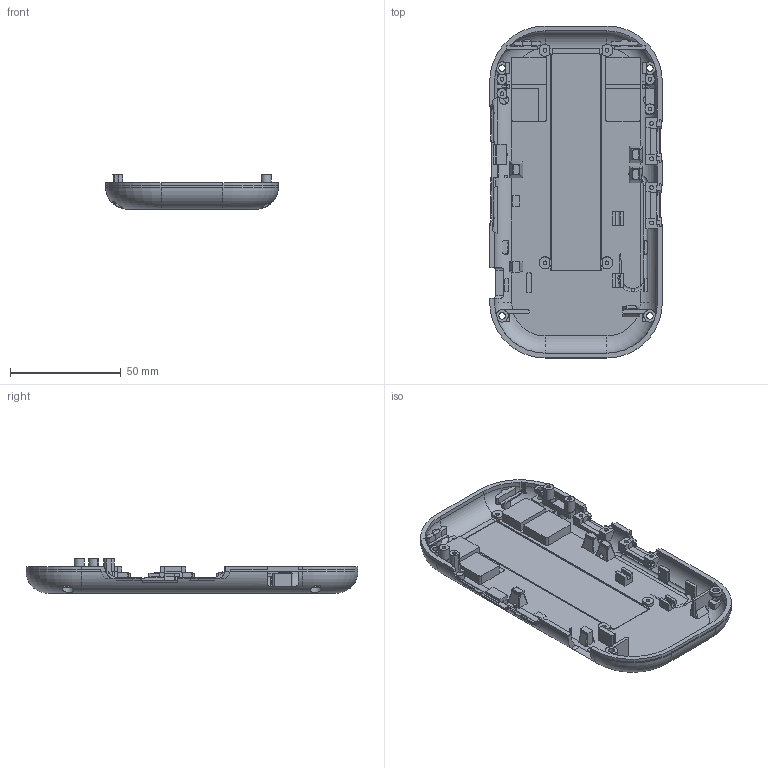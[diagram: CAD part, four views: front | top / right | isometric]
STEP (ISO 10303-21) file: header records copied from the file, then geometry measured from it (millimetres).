
FILE_DESCRIPTION(('Open CASCADE Model'),'2;1');
FILE_NAME('Open CASCADE Shape Model','2026-09-15T14:30:52',('Author'),( 'Open CASCADE'),'Open CASCADE STEP processor 7.7','Open CASCADE 7.7' ,'Unknown');
FILE_SCHEMA(('AUTOMOTIVE_DESIGN { 1 0 10303 214 1 1 1 1 }'));
Products named in the file (1): Open CASCADE STEP translator 7.7 2
Bounding box: 78 x 150 x 15.6 mm (x, y, z)
Volume: 34704.6 mm3; surface area: 32514.8 mm2
Topology: 1 solids, 1 shells, 921 faces, 2771 edges, 1867 vertices
Faces by surface type: plane 563, cylinder 246, bspline 48, torus 42, cone 22
Full cylindrical faces by diameter (mm): 1.65 x1, 1.7 x8, 1.8 x4, 2.17 x1, 2.9 x7, 4.2 x4
Entity records: 105085 total; most frequent: CARTESIAN_POINT 53963, DIRECTION 8425, ORIENTED_EDGE 5542, PCURVE 5542, DEFINITIONAL_REPRESENTATION 5542, LINE 4816, VECTOR 4816, EDGE_CURVE 2771
